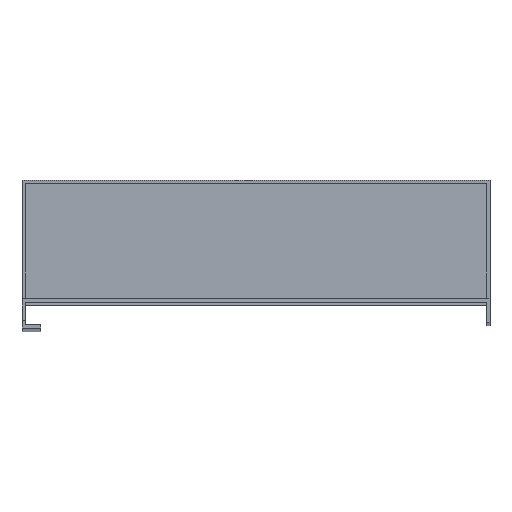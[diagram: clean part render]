
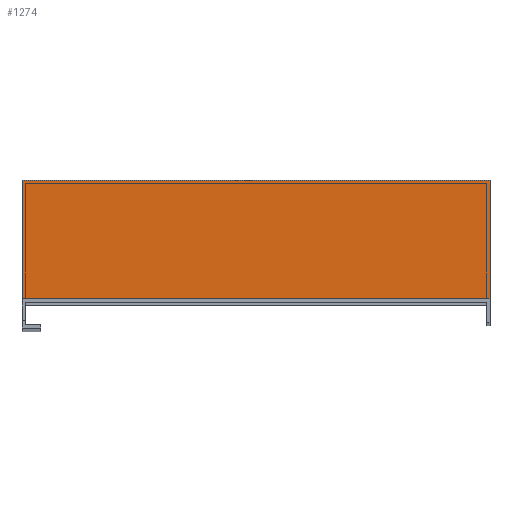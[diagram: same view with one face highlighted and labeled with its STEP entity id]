
A CAD part, top view. The second image highlights one B-rep face of the part: STEP entity #1274.
In plain terms, the highlighted planar face has unit normal (0, 0, 1).
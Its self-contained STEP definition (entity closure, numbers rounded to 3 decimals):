
#29 = VERTEX_POINT ( 'NONE', #73 ) ;
#42 = EDGE_CURVE ( 'NONE', #117, #29, #398, .T. ) ;
#73 = CARTESIAN_POINT ( 'NONE',  ( -8., 62.5, 855.4 ) ) ;
#117 = VERTEX_POINT ( 'NONE', #725 ) ;
#174 = CARTESIAN_POINT ( 'NONE',  ( -8., 59.4, 855.4 ) ) ;
#185 = VECTOR ( 'NONE', #620, 1000. ) ;
#398 = LINE ( 'NONE', #174, #569 ) ;
#449 = AXIS2_PLACEMENT_3D ( 'NONE', #1300, #1074, #1285 ) ;
#503 = ORIENTED_EDGE ( 'NONE', *, *, #914, .T. ) ;
#569 = VECTOR ( 'NONE', #811, 1000. ) ;
#620 = DIRECTION ( 'NONE',  ( -1., 0., 0. ) ) ;
#624 = CARTESIAN_POINT ( 'NONE',  ( 190., 12.4, 855.4 ) ) ;
#695 = CARTESIAN_POINT ( 'NONE',  ( 190., 0., 855.4 ) ) ;
#725 = CARTESIAN_POINT ( 'NONE',  ( -8., 12.4, 855.4 ) ) ;
#735 = EDGE_CURVE ( 'NONE', #1264, #1194, #1340, .T. ) ;
#796 = ORIENTED_EDGE ( 'NONE', *, *, #893, .T. ) ;
#811 = DIRECTION ( 'NONE',  ( 0., 1., 0. ) ) ;
#831 = CARTESIAN_POINT ( 'NONE',  ( 0., 12.4, 855.4 ) ) ;
#857 = FACE_OUTER_BOUND ( 'NONE', #1224, .T. ) ;
#889 = VECTOR ( 'NONE', #1128, 1000. ) ;
#890 = ORIENTED_EDGE ( 'NONE', *, *, #42, .F. ) ;
#893 = EDGE_CURVE ( 'NONE', #1264, #29, #989, .T. ) ;
#904 = ORIENTED_EDGE ( 'NONE', *, *, #735, .F. ) ;
#914 = EDGE_CURVE ( 'NONE', #117, #1194, #1296, .T. ) ;
#989 = LINE ( 'NONE', #1151, #185 ) ;
#1068 = CARTESIAN_POINT ( 'NONE',  ( 190., 62.5, 855.4 ) ) ;
#1074 = DIRECTION ( 'NONE',  ( 0., 0., 1. ) ) ;
#1128 = DIRECTION ( 'NONE',  ( 0., -1., 0. ) ) ;
#1151 = CARTESIAN_POINT ( 'NONE',  ( -8., 62.5, 855.4 ) ) ;
#1179 = PLANE ( 'NONE',  #449 ) ;
#1194 = VERTEX_POINT ( 'NONE', #624 ) ;
#1224 = EDGE_LOOP ( 'NONE', ( #796, #890, #503, #904 ) ) ;
#1251 = VECTOR ( 'NONE', #1413, 1000. ) ;
#1264 = VERTEX_POINT ( 'NONE', #1068 ) ;
#1274 = ADVANCED_FACE ( 'NONE', ( #857 ), #1179, .T. ) ;
#1285 = DIRECTION ( 'NONE',  ( 0., -1., 0. ) ) ;
#1296 = LINE ( 'NONE', #831, #1251 ) ;
#1300 = CARTESIAN_POINT ( 'NONE',  ( 0., 0., 855.4 ) ) ;
#1340 = LINE ( 'NONE', #695, #889 ) ;
#1413 = DIRECTION ( 'NONE',  ( 1., 0., 0. ) ) ;
